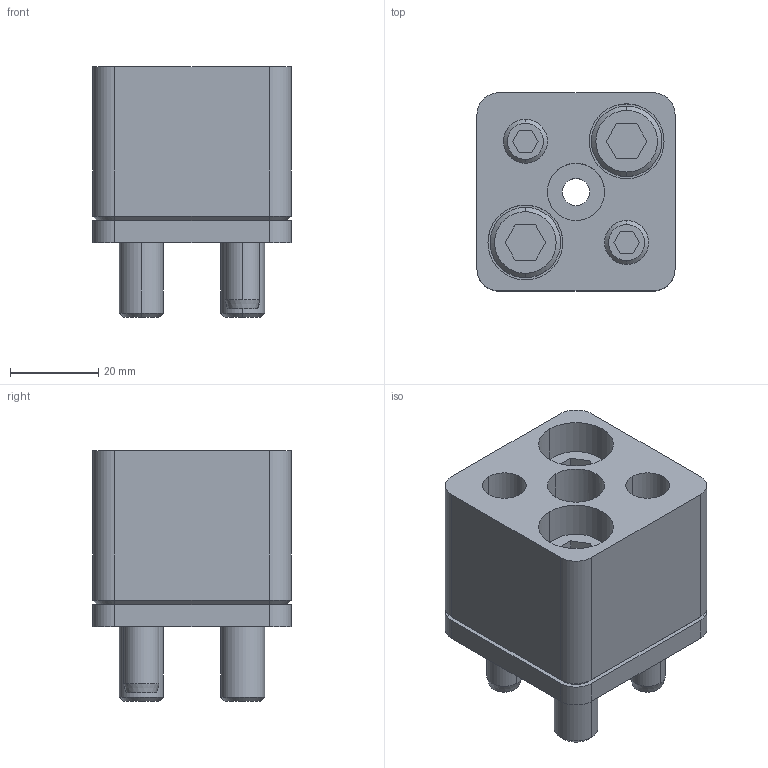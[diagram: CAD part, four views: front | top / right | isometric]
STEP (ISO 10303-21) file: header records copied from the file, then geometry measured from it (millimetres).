
FILE_DESCRIPTION(/* description */ (''),/* implementation_level */ '2;1');
FILE_NAME(/* name */ '3d_hsa-fp13_04187_r00.stp',/* time_stamp */ '2011-01-10T14:14:36+09:00',/* author */ ('MISUMI'),/* organization */ (''),/* preprocessor_version */ 'ST-DEVELOPER v11',/* originating_system */ 'UGS - NX 5.0',/* authorisation */ '');
FILE_SCHEMA (('CONFIG_CONTROL_DESIGN'));
Length unit declared in the file: millimetre
Products named in the file (1): 3d_hsa-fp13_04187_r00
Bounding box: 45 x 45 x 57 mm (x, y, z)
Volume: 70098.6 mm3; surface area: 28005.8 mm2
Topology: 8 solids, 8 shells, 167 faces, 380 edges, 243 vertices
Faces by surface type: plane 72, cylinder 65, cone 30
Entity records: 4856 total; most frequent: DIRECTION 866, CARTESIAN_POINT 850, ORIENTED_EDGE 760, EDGE_CURVE 380, AXIS2_PLACEMENT_3D 329, VERTEX_POINT 243, LINE 208, VECTOR 208
